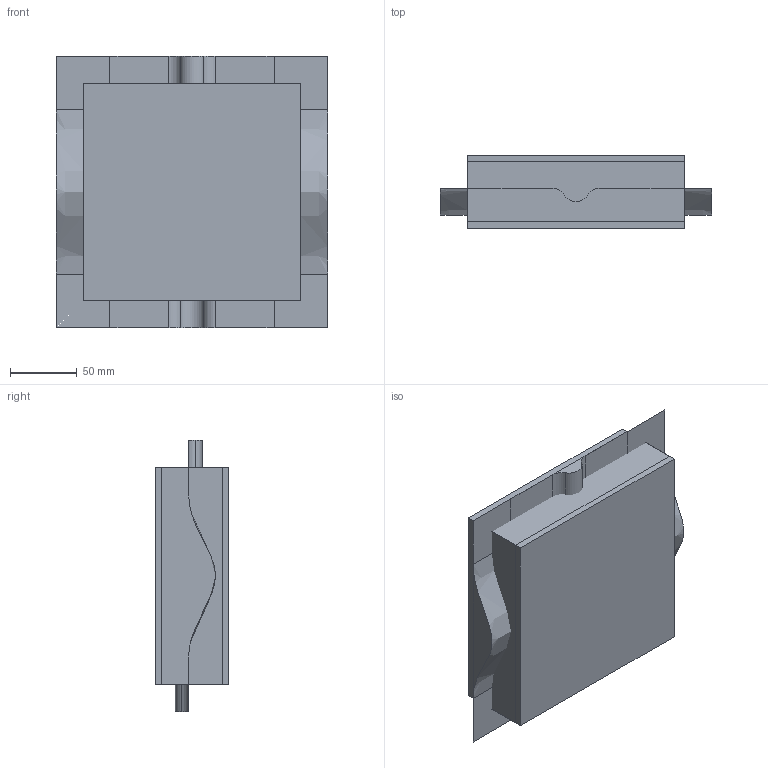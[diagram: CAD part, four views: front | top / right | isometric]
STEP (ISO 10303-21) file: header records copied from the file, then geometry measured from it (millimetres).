
FILE_DESCRIPTION(('CATIA V5 STEP Exchange'),'2;1');
FILE_NAME('C:\_Andres\UNIVERSIDAD\IQS\ASIGNATURAS\DAO\EXF\EXF-16172c\2inicio\Perez_Pellicer_Ej02_v23.stp','2017-03-05T15:45:31+00:00',('none'),('none'),'CATIA Version 5-6 Release 2014 SP1 HF18','CATIA V5 STEP AP203','none');
FILE_SCHEMA(('CONFIG_CONTROL_DESIGN'));
Length unit declared in the file: millimetre
Products named in the file (1): Perez_Pellicer_Ej02_v23
Bounding box: 203 x 55 x 203 mm (x, y, z)
Surface area: 266509.3 mm2
Topology: 3 solids, 10 shells, 72 faces, 205 edges, 150 vertices
Faces by surface type: bspline 32, plane 32, cylinder 6, extrusion 2
Entity records: 6014 total; most frequent: CARTESIAN_POINT 4697, ORIENTED_EDGE 288, DIRECTION 151, EDGE_CURVE 132, VERTEX_POINT 84, VECTOR 77, LINE 75, ADVANCED_FACE 72
